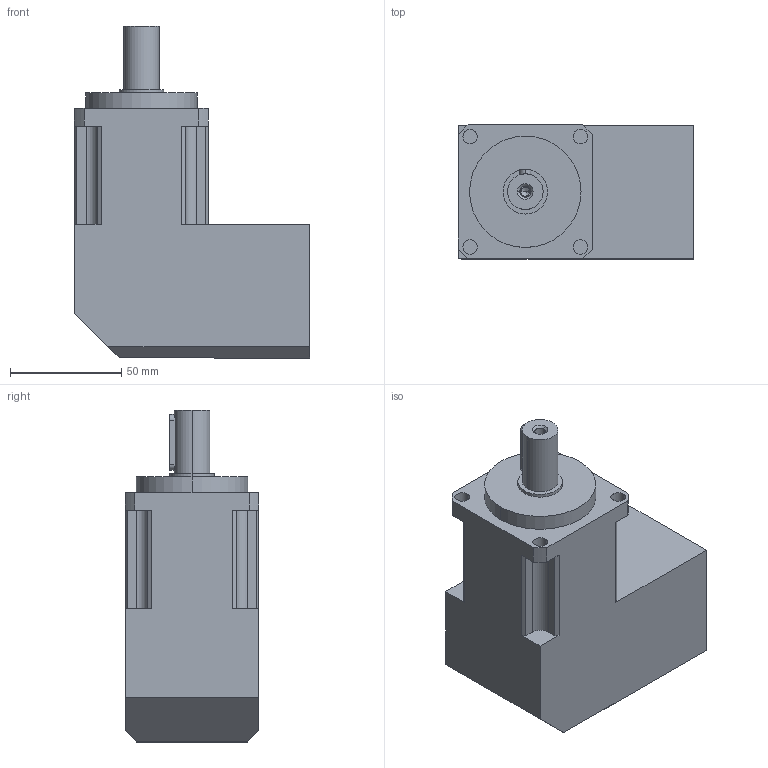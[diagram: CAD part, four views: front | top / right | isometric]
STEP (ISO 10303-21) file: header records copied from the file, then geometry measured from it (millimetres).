
FILE_DESCRIPTION (( 'STEP AP203' ), '1' );
FILE_NAME ('IBR60L1-i-P2-S2-14-30-50-70-M5.STEP', '2016-01-04T12:54:38', ( 'User' ), ( 'china' ), 'SwSTEP 2.0', 'SolidWorks 2014', '' );
FILE_SCHEMA (( 'CONFIG_CONTROL_DESIGN' ));
Length unit declared in the file: millimetre
Products named in the file (1): IBR60L1-i-P2-S2-14-30-50-70-M5
Bounding box: 105.5 x 60 x 149 mm (x, y, z)
Volume: 538956.6 mm3; surface area: 49324.4 mm2
Topology: 1 solids, 1 shells, 107 faces, 270 edges, 171 vertices
Faces by surface type: cylinder 57, plane 38, cone 12
Entity records: 3321 total; most frequent: CARTESIAN_POINT 602, DIRECTION 586, ORIENTED_EDGE 520, EDGE_CURVE 260, AXIS2_PLACEMENT_3D 221, VERTEX_POINT 171, LINE 144, VECTOR 144
